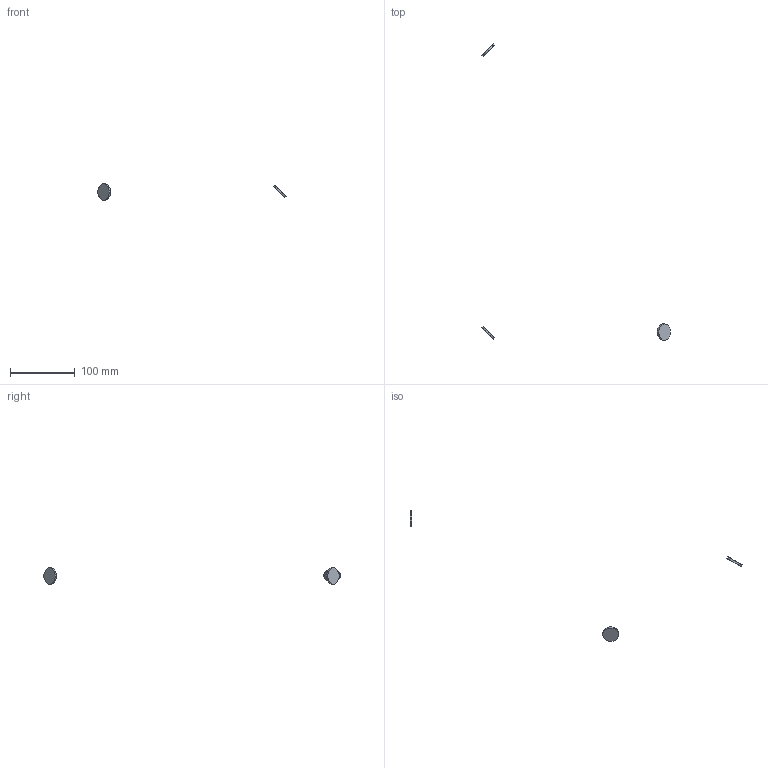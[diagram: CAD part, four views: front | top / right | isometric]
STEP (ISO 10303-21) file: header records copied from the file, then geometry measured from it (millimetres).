
FILE_DESCRIPTION(/* description */ (''),/* implementation_level */ '2;1');
FILE_NAME(/* name */ '10.optics-laser#10.7#la-lmp-1',/* time_stamp */ '2014-12-01T20:19:35+01:00',/* author */ (''),/* organization */ (''),/* preprocessor_version */ 'ST-DEVELOPER v14',/* originating_system */ '',/* authorisation */ '');
FILE_SCHEMA (('AUTOMOTIVE_DESIGN'));
Length unit declared in the file: millimetre
Products named in the file (1): Document
Bounding box: 290.75 x 456.96 x 25 mm (x, y, z)
Volume: 4428.3 mm3; surface area: 3655 mm2
Topology: 3 solids, 3 shells, 12 faces, 18 edges, 12 vertices
Faces by surface type: bspline 6, plane 6
Entity records: 598 total; most frequent: CARTESIAN_POINT 308, ORIENTED_EDGE 36, PCURVE 36, DEFINITIONAL_REPRESENTATION 36, B_SPLINE_CURVE_WITH_KNOTS 24, SURFACE_CURVE 18, EDGE_CURVE 18, ADVANCED_FACE 12
